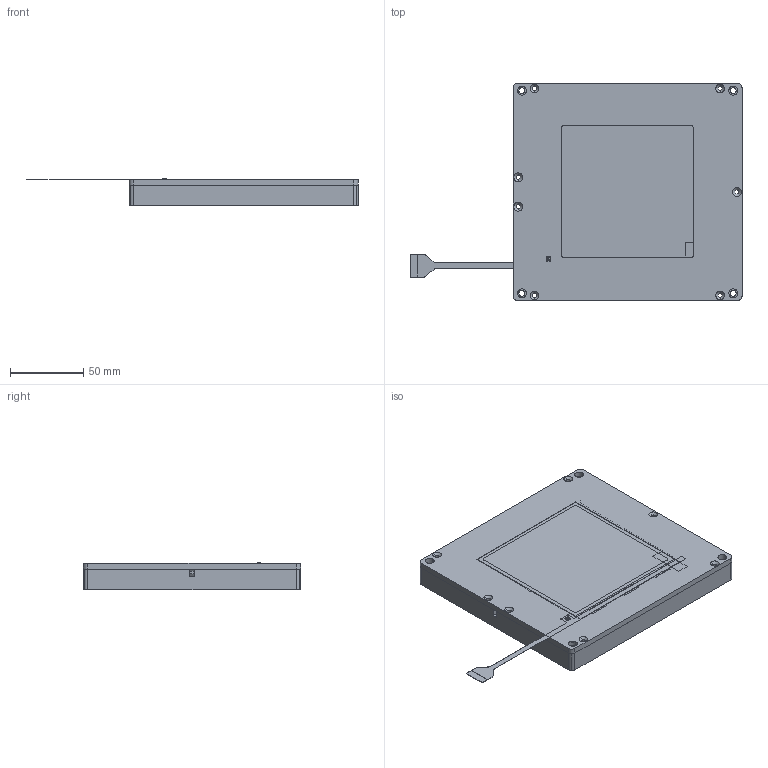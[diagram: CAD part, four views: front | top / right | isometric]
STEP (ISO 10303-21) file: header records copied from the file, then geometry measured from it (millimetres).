
FILE_DESCRIPTION(('STEP AP214'),'1');
FILE_NAME('BLW100x100+LCD V7.stp','2024-07-08T10:00:31',(''),(''),'Spatial InterOp 3D',' ',' ');
FILE_SCHEMA(('AUTOMOTIVE_DESIGN { 1 0 10303 214 1 1 1 1 }'));
Length unit declared in the file: millimetre
Products named in the file (1): Pièce_475660
Bounding box: 226.22 x 148 x 18.9 mm (x, y, z)
Volume: 298190.1 mm3; surface area: 192931 mm2
Topology: 29 solids, 29 shells, 1006 faces, 2694 edges, 1852 vertices
Faces by surface type: plane 468, cylinder 380, extrusion 97, cone 50, bspline 9, sphere 2
Entity records: 60679 total; most frequent: CARTESIAN_POINT 14392, DIRECTION 5271, ORIENTED_EDGE 5238, STYLED_ITEM 3479, PRESENTATION_STYLE_ASSIGNMENT 3479, COLOUR_RGB 3479, EDGE_CURVE 2619, CURVE_STYLE 2444
